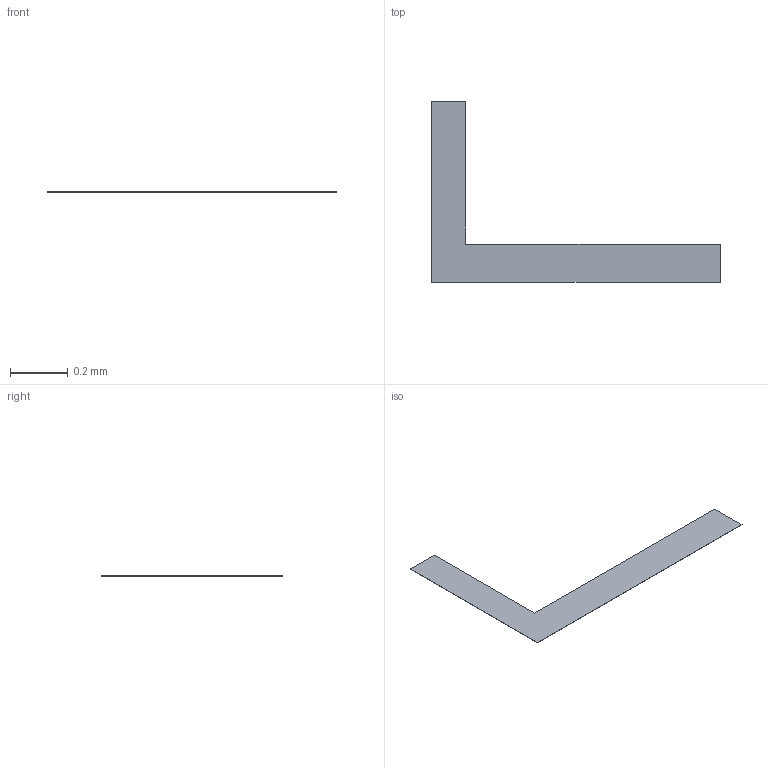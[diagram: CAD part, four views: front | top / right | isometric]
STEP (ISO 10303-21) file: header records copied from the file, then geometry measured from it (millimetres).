
FILE_DESCRIPTION(/* description */ ('STEP AP242 Edition 2','CAx-IF Rec.Pracs.---Representation and Presentation of Product Manufacturing Information (PMI)---4.0---2014-10-13','CAx-IF Rec.Pracs.---3D Tessellated Geometry---0.4---2014-09-14','2;1','CAx-IF Rec.Pracs.---User Defined Attributes---1.5---2016-08-15'),/* implementation_level */ '2;1');
FILE_NAME(/* name */ 'Drone Layout - Surface 367',/* time_stamp */ '2026-10-04T22:22:58Z',/* author */ (''),/* organization */ (''),/* preprocessor_version */ 'ST-DEVELOPER v20',/* originating_system */ 'ONSHAPE BY PTC INC, 1.221',/* authorisation */ ' ');
FILE_SCHEMA (('AP242_MANAGED_MODEL_BASED_3D_ENGINEERING_MIM_LF { 1 0 10303 442 3 1 4 }'));
Length unit declared in the file: metre
Products named in the file (1): VL53L0X:1__Body41
Bounding box: 1 x 0.62 x 0 mm (x, y, z)
Volume: 0 mm3; surface area: 0.4 mm2
Topology: 1 solids, 1 shells, 8 faces, 18 edges, 12 vertices
Faces by surface type: plane 8
Entity records: 235 total; most frequent: CARTESIAN_POINT 39, ORIENTED_EDGE 36, DIRECTION 36, EDGE_CURVE 18, LINE 18, VECTOR 18, VERTEX_POINT 12, AXIS2_PLACEMENT_3D 9
